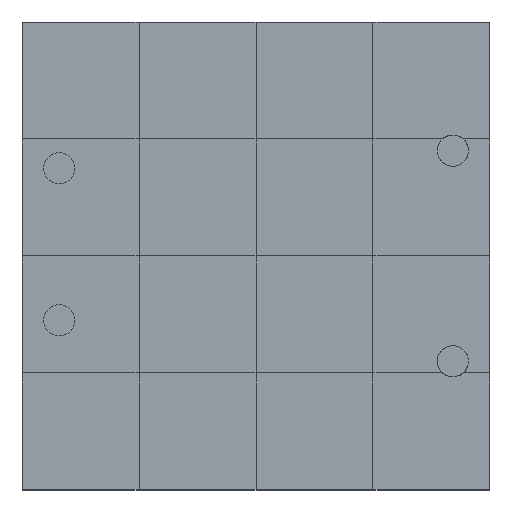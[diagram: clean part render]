
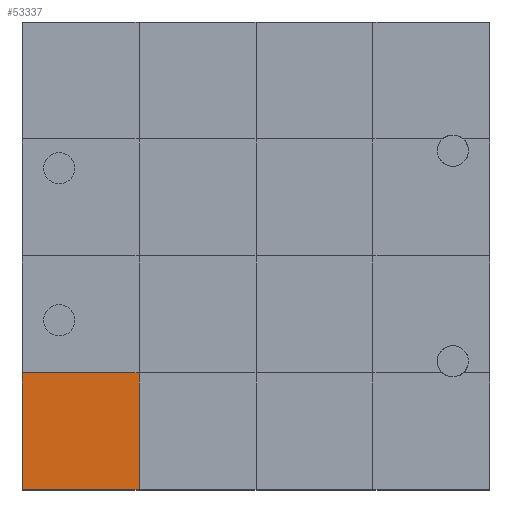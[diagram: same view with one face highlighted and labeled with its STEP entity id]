
A CAD part, top view. The second image highlights one B-rep face of the part: STEP entity #53337.
In plain terms, the highlighted planar face has unit normal (0, 0, 1).
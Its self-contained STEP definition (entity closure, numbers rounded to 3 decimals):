
#53148 = VERTEX_POINT('',#53149);
#53149 = CARTESIAN_POINT('',(0.,0.,1.5));
#53156 = PLANE('',#53157);
#53157 = AXIS2_PLACEMENT_3D('',#53158,#53159,#53160);
#53158 = CARTESIAN_POINT('',(0.,0.,0.));
#53159 = DIRECTION('',(1.,0.,-0.));
#53160 = DIRECTION('',(0.,0.,1.));
#53168 = PLANE('',#53169);
#53169 = AXIS2_PLACEMENT_3D('',#53170,#53171,#53172);
#53170 = CARTESIAN_POINT('',(0.,0.,0.));
#53171 = DIRECTION('',(-0.,1.,0.));
#53172 = DIRECTION('',(0.,0.,1.));
#53209 = VERTEX_POINT('',#53210);
#53210 = CARTESIAN_POINT('',(0.,3.,1.5));
#53236 = EDGE_CURVE('',#53148,#53209,#53237,.T.);
#53237 = SURFACE_CURVE('',#53238,(#53242,#53249),.PCURVE_S1.);
#53238 = LINE('',#53239,#53240);
#53239 = CARTESIAN_POINT('',(0.,0.,1.5));
#53240 = VECTOR('',#53241,1.);
#53241 = DIRECTION('',(-0.,1.,0.));
#53242 = PCURVE('',#53156,#53243);
#53243 = DEFINITIONAL_REPRESENTATION('',(#53244),#53248);
#53244 = LINE('',#53245,#53246);
#53245 = CARTESIAN_POINT('',(1.5,0.));
#53246 = VECTOR('',#53247,1.);
#53247 = DIRECTION('',(0.,-1.));
#53248 = ( GEOMETRIC_REPRESENTATION_CONTEXT(2) 
PARAMETRIC_REPRESENTATION_CONTEXT() REPRESENTATION_CONTEXT('2D SPACE',''
  ) );
#53249 = PCURVE('',#53250,#53255);
#53250 = PLANE('',#53251);
#53251 = AXIS2_PLACEMENT_3D('',#53252,#53253,#53254);
#53252 = CARTESIAN_POINT('',(0.,0.,1.5));
#53253 = DIRECTION('',(0.,0.,1.));
#53254 = DIRECTION('',(1.,0.,-0.));
#53255 = DEFINITIONAL_REPRESENTATION('',(#53256),#53260);
#53256 = LINE('',#53257,#53258);
#53257 = CARTESIAN_POINT('',(0.,0.));
#53258 = VECTOR('',#53259,1.);
#53259 = DIRECTION('',(0.,1.));
#53260 = ( GEOMETRIC_REPRESENTATION_CONTEXT(2) 
PARAMETRIC_REPRESENTATION_CONTEXT() REPRESENTATION_CONTEXT('2D SPACE',''
  ) );
#53289 = EDGE_CURVE('',#53148,#53290,#53292,.T.);
#53290 = VERTEX_POINT('',#53291);
#53291 = CARTESIAN_POINT('',(3.,0.,1.5));
#53292 = SURFACE_CURVE('',#53293,(#53297,#53304),.PCURVE_S1.);
#53293 = LINE('',#53294,#53295);
#53294 = CARTESIAN_POINT('',(0.,0.,1.5));
#53295 = VECTOR('',#53296,1.);
#53296 = DIRECTION('',(1.,0.,-0.));
#53297 = PCURVE('',#53168,#53298);
#53298 = DEFINITIONAL_REPRESENTATION('',(#53299),#53303);
#53299 = LINE('',#53300,#53301);
#53300 = CARTESIAN_POINT('',(1.5,0.));
#53301 = VECTOR('',#53302,1.);
#53302 = DIRECTION('',(0.,1.));
#53303 = ( GEOMETRIC_REPRESENTATION_CONTEXT(2) 
PARAMETRIC_REPRESENTATION_CONTEXT() REPRESENTATION_CONTEXT('2D SPACE',''
  ) );
#53304 = PCURVE('',#53250,#53305);
#53305 = DEFINITIONAL_REPRESENTATION('',(#53306),#53310);
#53306 = LINE('',#53307,#53308);
#53307 = CARTESIAN_POINT('',(0.,0.));
#53308 = VECTOR('',#53309,1.);
#53309 = DIRECTION('',(1.,0.));
#53310 = ( GEOMETRIC_REPRESENTATION_CONTEXT(2) 
PARAMETRIC_REPRESENTATION_CONTEXT() REPRESENTATION_CONTEXT('2D SPACE',''
  ) );
#53337 = ADVANCED_FACE('',(#53338),#53250,.T.);
#53338 = FACE_BOUND('',#53339,.T.);
#53339 = EDGE_LOOP('',(#53340,#53341,#53342,#53370));
#53340 = ORIENTED_EDGE('',*,*,#53236,.F.);
#53341 = ORIENTED_EDGE('',*,*,#53289,.T.);
#53342 = ORIENTED_EDGE('',*,*,#53343,.T.);
#53343 = EDGE_CURVE('',#53290,#53344,#53346,.T.);
#53344 = VERTEX_POINT('',#53345);
#53345 = CARTESIAN_POINT('',(3.,3.,1.5));
#53346 = SURFACE_CURVE('',#53347,(#53351,#53358),.PCURVE_S1.);
#53347 = LINE('',#53348,#53349);
#53348 = CARTESIAN_POINT('',(3.,0.,1.5));
#53349 = VECTOR('',#53350,1.);
#53350 = DIRECTION('',(-0.,1.,0.));
#53351 = PCURVE('',#53250,#53352);
#53352 = DEFINITIONAL_REPRESENTATION('',(#53353),#53357);
#53353 = LINE('',#53354,#53355);
#53354 = CARTESIAN_POINT('',(3.,0.));
#53355 = VECTOR('',#53356,1.);
#53356 = DIRECTION('',(0.,1.));
#53357 = ( GEOMETRIC_REPRESENTATION_CONTEXT(2) 
PARAMETRIC_REPRESENTATION_CONTEXT() REPRESENTATION_CONTEXT('2D SPACE',''
  ) );
#53358 = PCURVE('',#53359,#53364);
#53359 = PLANE('',#53360);
#53360 = AXIS2_PLACEMENT_3D('',#53361,#53362,#53363);
#53361 = CARTESIAN_POINT('',(3.,0.,1.5));
#53362 = DIRECTION('',(0.,0.,1.));
#53363 = DIRECTION('',(1.,0.,-0.));
#53364 = DEFINITIONAL_REPRESENTATION('',(#53365),#53369);
#53365 = LINE('',#53366,#53367);
#53366 = CARTESIAN_POINT('',(0.,0.));
#53367 = VECTOR('',#53368,1.);
#53368 = DIRECTION('',(0.,1.));
#53369 = ( GEOMETRIC_REPRESENTATION_CONTEXT(2) 
PARAMETRIC_REPRESENTATION_CONTEXT() REPRESENTATION_CONTEXT('2D SPACE',''
  ) );
#53370 = ORIENTED_EDGE('',*,*,#53371,.F.);
#53371 = EDGE_CURVE('',#53209,#53344,#53372,.T.);
#53372 = SURFACE_CURVE('',#53373,(#53377,#53384),.PCURVE_S1.);
#53373 = LINE('',#53374,#53375);
#53374 = CARTESIAN_POINT('',(0.,3.,1.5));
#53375 = VECTOR('',#53376,1.);
#53376 = DIRECTION('',(1.,0.,-0.));
#53377 = PCURVE('',#53250,#53378);
#53378 = DEFINITIONAL_REPRESENTATION('',(#53379),#53383);
#53379 = LINE('',#53380,#53381);
#53380 = CARTESIAN_POINT('',(0.,3.));
#53381 = VECTOR('',#53382,1.);
#53382 = DIRECTION('',(1.,0.));
#53383 = ( GEOMETRIC_REPRESENTATION_CONTEXT(2) 
PARAMETRIC_REPRESENTATION_CONTEXT() REPRESENTATION_CONTEXT('2D SPACE',''
  ) );
#53384 = PCURVE('',#53385,#53390);
#53385 = PLANE('',#53386);
#53386 = AXIS2_PLACEMENT_3D('',#53387,#53388,#53389);
#53387 = CARTESIAN_POINT('',(0.,3.,1.5));
#53388 = DIRECTION('',(0.,0.,1.));
#53389 = DIRECTION('',(1.,0.,-0.));
#53390 = DEFINITIONAL_REPRESENTATION('',(#53391),#53395);
#53391 = LINE('',#53392,#53393);
#53392 = CARTESIAN_POINT('',(0.,0.));
#53393 = VECTOR('',#53394,1.);
#53394 = DIRECTION('',(1.,0.));
#53395 = ( GEOMETRIC_REPRESENTATION_CONTEXT(2) 
PARAMETRIC_REPRESENTATION_CONTEXT() REPRESENTATION_CONTEXT('2D SPACE',''
  ) );
